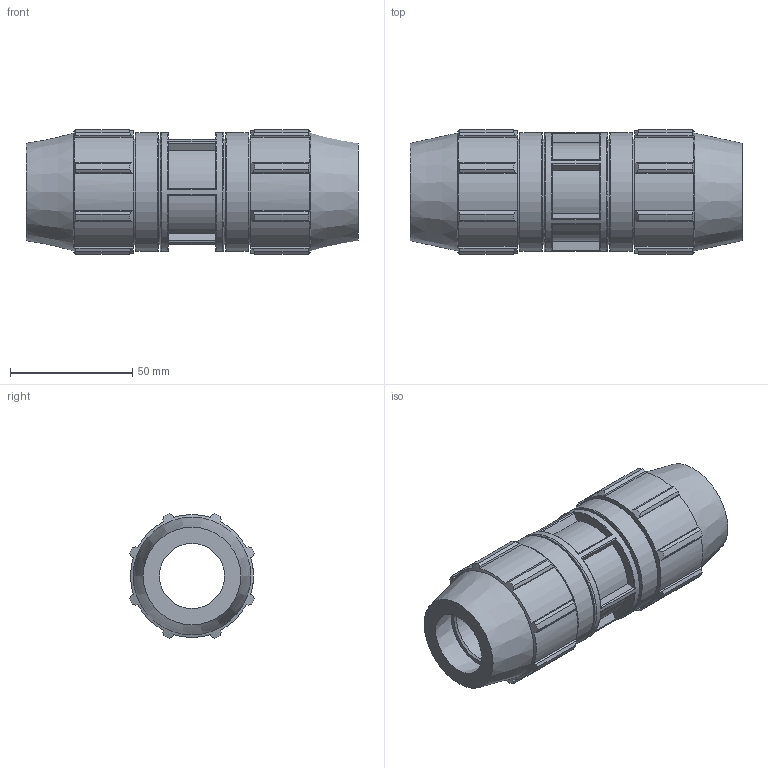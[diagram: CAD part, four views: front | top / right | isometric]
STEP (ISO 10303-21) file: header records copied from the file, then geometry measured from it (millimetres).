
FILE_DESCRIPTION(/* description */ ('PLASSON REPAIR COUPLER 3/4'''' - 3/4'''''),/* implementation_level */ '2;1');
FILE_NAME(/* name */ 'C:\Dropbox\KIMPROJECTS-Inventor 2019\99-16-3568-Processing Inch\ASTM Compression 2021\0761M\0761M0007.ipt.stp',/* time_stamp */ '2021-08-26T12:34:25+03:00',/* author */ ('KIM'),/* organization */ (''),/* preprocessor_version */ 'ST-DEVELOPER v17.2',/* originating_system */ 'Autodesk Inventor 2019',/* authorisation */ '');
FILE_SCHEMA (('AUTOMOTIVE_DESIGN { 1 0 10303 214 3 1 1 }'));
Length unit declared in the file: inch
Products named in the file (1): 0761M0007
Bounding box: 135.89 x 50.91 x 50.91 mm (x, y, z)
Volume: 159725.5 mm3; surface area: 39936.3 mm2
Topology: 1 solids, 1 shells, 200 faces, 572 edges, 390 vertices
Faces by surface type: plane 100, cylinder 58, cone 24, torus 18
Full cylindrical faces by diameter (mm): 26.6 x1, 43.282 x4, 48.692 x3
Entity records: 6791 total; most frequent: CARTESIAN_POINT 1507, ORIENTED_EDGE 1144, DIRECTION 1102, EDGE_CURVE 572, AXIS2_PLACEMENT_3D 417, VERTEX_POINT 390, LINE 268, VECTOR 268
